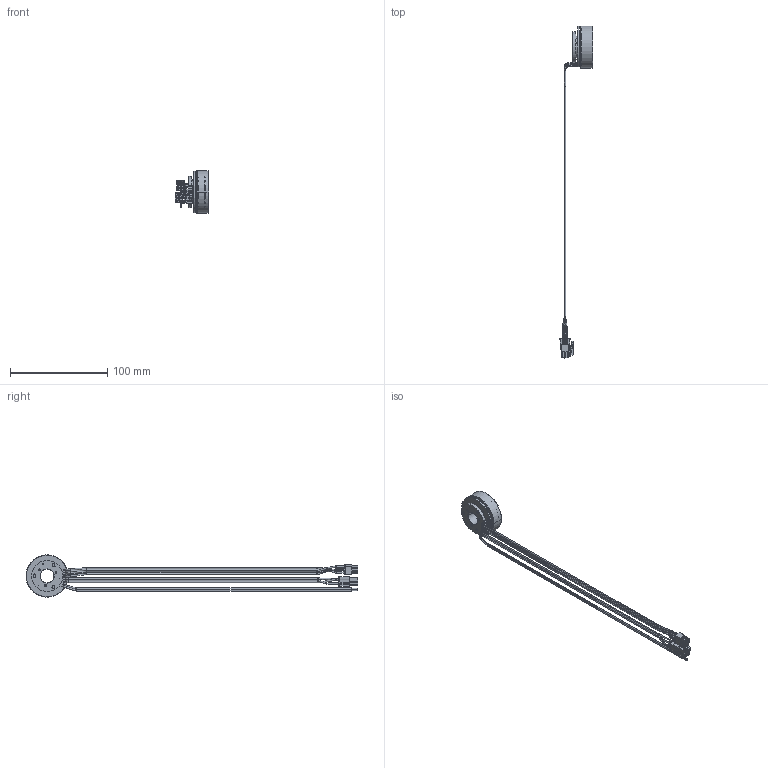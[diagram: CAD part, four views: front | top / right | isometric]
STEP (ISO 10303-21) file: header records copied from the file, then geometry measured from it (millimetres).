
FILE_DESCRIPTION((''),'2;1');
FILE_NAME('548273','2017-02-17T',('mmagpetk'),(''),'CREO PARAMETRIC BY PTC INC, 2016050','CREO PARAMETRIC BY PTC INC, 2016050','');
FILE_SCHEMA(('CONFIG_CONTROL_DESIGN'));
Length unit declared in the file: millimetre
Products named in the file (1): 548273
Bounding box: 34.35 x 341.05 x 43.4 mm (x, y, z)
Volume: 22854.7 mm3; surface area: 35007.9 mm2
Topology: 4 solids, 4 shells, 1850 faces, 4572 edges, 2806 vertices
Faces by surface type: plane 932, cylinder 667, sphere 112, torus 101, cone 38
Entity records: 84145 total; most frequent: CARTESIAN_POINT 13143, DIRECTION 9719, ORIENTED_EDGE 9144, PRESENTATION_STYLE_ASSIGNMENT 6014, STYLED_ITEM 4576, CURVE_STYLE 4572, EDGE_CURVE 4572, AXIS2_PLACEMENT_3D 3418
